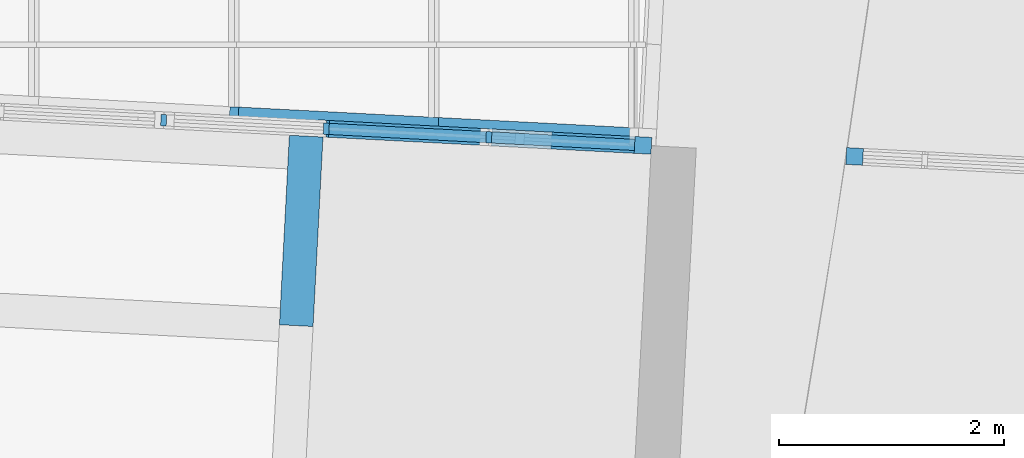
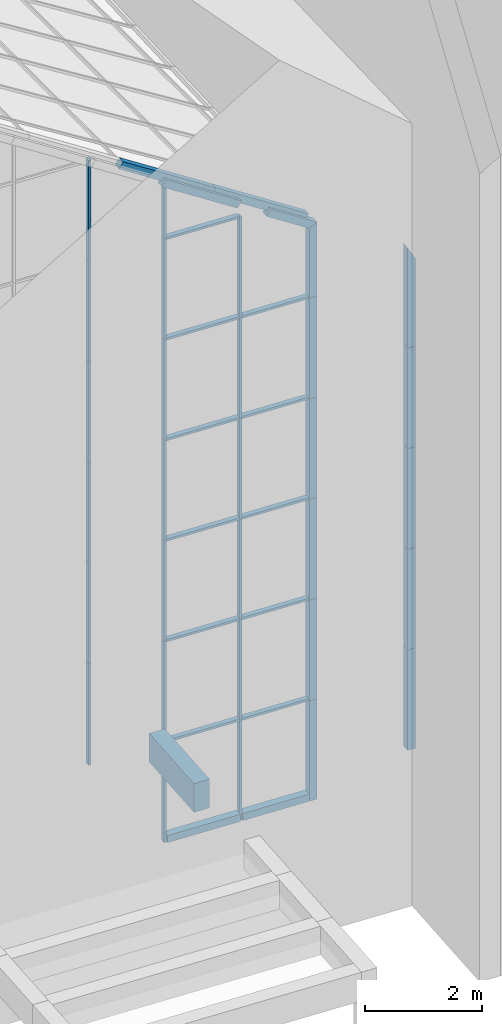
# One storey, part 4 of 82: 48 members, 3 elements without a shape of their own.
"""IFC2X3 building model written with IfcOpenShell, lengths in millimetres."""

from ifc_helpers import new_model, entity, si_unit, converted_unit, derived_unit, direction, frame, frame_2d, origin, origin_2d_with_axis, place, context, subcontext, project, spatial, rectangle, extrude, clip, halfspace, source, transform, mapped, material, type_object, type_shapes, element, aggregate, save


model = new_model("IFC2X3")

# Units and contexts
model_context = context("Model", 3, precision=0.01, world=origin(), true_north=direction((6.12303176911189e-17, 1.0)))
body_context = subcontext(model_context, "Body", "Model", "MODEL_VIEW")
ifc_project = project(units=[si_unit("LENGTHUNIT", "METRE", prefix="MILLI"), si_unit("AREAUNIT", "SQUARE_METRE"), si_unit("VOLUMEUNIT", "CUBIC_METRE"), converted_unit("PLANEANGLEUNIT", "DEGREE", entity("IfcRatioMeasure", 0.0174532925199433), si_unit("PLANEANGLEUNIT", "RADIAN"), dimensions=[0, 0, 0, 0, 0, 0, 0]), si_unit("MASSUNIT", "GRAM", prefix="KILO"), derived_unit("MASSDENSITYUNIT", [(si_unit("MASSUNIT", "GRAM", prefix="KILO"), 1), (si_unit("LENGTHUNIT", "METRE"), -3)]), si_unit("TIMEUNIT", "SECOND"), si_unit("FREQUENCYUNIT", "HERTZ"), si_unit("THERMODYNAMICTEMPERATUREUNIT", "DEGREE_CELSIUS"), derived_unit("THERMALTRANSMITTANCEUNIT", [(si_unit("MASSUNIT", "GRAM", prefix="KILO"), 1), (si_unit("THERMODYNAMICTEMPERATUREUNIT", "KELVIN"), -1), (si_unit("TIMEUNIT", "SECOND"), -3)]), derived_unit("VOLUMETRICFLOWRATEUNIT", [(si_unit("LENGTHUNIT", "METRE"), 3), (si_unit("TIMEUNIT", "SECOND"), -1)]), si_unit("ELECTRICCURRENTUNIT", "AMPERE"), si_unit("ELECTRICVOLTAGEUNIT", "VOLT"), si_unit("POWERUNIT", "WATT"), si_unit("FORCEUNIT", "NEWTON", prefix="KILO"), si_unit("ILLUMINANCEUNIT", "LUX"), si_unit("LUMINOUSFLUXUNIT", "LUMEN"), si_unit("LUMINOUSINTENSITYUNIT", "CANDELA"), derived_unit("USERDEFINED", [(si_unit("MASSUNIT", "GRAM", prefix="KILO"), -1), (si_unit("LENGTHUNIT", "METRE"), -2), (si_unit("TIMEUNIT", "SECOND"), 3), (si_unit("LUMINOUSFLUXUNIT", "LUMEN"), 1)]), derived_unit("LINEARVELOCITYUNIT", [(si_unit("LENGTHUNIT", "METRE"), 1), (si_unit("TIMEUNIT", "SECOND"), -1)]), si_unit("PRESSUREUNIT", "PASCAL"), derived_unit("USERDEFINED", [(si_unit("LENGTHUNIT", "METRE"), -2), (si_unit("MASSUNIT", "GRAM", prefix="KILO"), 1), (si_unit("TIMEUNIT", "SECOND"), -2)])], contexts=[model_context])

# Site, building, storey
site_placement = place(None, origin())
site = spatial("IfcSite", under=ifc_project, at=site_placement, Name="表面", CompositionType="ELEMENT")
building_placement = place(site_placement, origin())
building = spatial("IfcBuilding", under=site, at=building_placement, CompositionType="ELEMENT")
storey_placement = place(building_placement, origin())
storey = spatial("IfcBuildingStorey", under=building, at=storey_placement, Name="1F", CompositionType="ELEMENT", Elevation=0.0)

# Curtain wall, members
curtain_wall_type_1 = type_object("IfcCurtainWallType", Name="幕墙系统:1450 x 2100mm", PredefinedType="NOTDEFINED")
curtain_wall_1_placement = place(storey_placement, origin())
curtain_wall_1 = element("IfcCurtainWall", 1, at=curtain_wall_1_placement, inside=storey, type_object=curtain_wall_type_1, Name="幕墙系统:1450 x 2100mm", ObjectType="幕墙系统:1450 x 2100mm")
ifc_material_1 = material(Name="金属 - 铝")
member_type_1 = type_object("IfcMemberType", Name="50 x 100mm", PredefinedType="MEMBER")
shared_shape_1 = source(origin(), body_context, "Body", "SweptSolid", [
    extrude(rectangle(XDim=100.0, YDim=50.0, at=origin_2d_with_axis()), frame((0.0, 0.0, -1400.0), z_axis=(0.0, 0.0, 1.0), x_axis=(0.0, -1.0, 0.0)), (0.0, 0.0, 1.0), 1400.0),
])
type_shapes(member_type_1, [shared_shape_1])
member_1_placement = place(storey_placement, frame((-21233.5918183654, -28710.320385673, 2100.0), z_axis=(0.998629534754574, -0.0523359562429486, 0.0), x_axis=(0.0, 0.0, 1.0)))
member_1 = element("IfcMember", 2, at=member_1_placement, type_object=member_type_1, material=ifc_material_1, Name="矩形竖梃:50 x 100mm", ObjectType="50 x 100mm", context=body_context, shape_type="MappedRepresentation", body=[
    mapped(shared_shape_1, transform((0.0, 0.0, 0.0), scale=1.0)),
])
placement_1 = place(building_placement, frame((0.0, 0.0, 3000.0)))
member_2_placement = place(placement_1, frame((-21233.5918183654, -28710.320385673, 1200.0), z_axis=(0.998629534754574, -0.0523359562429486, 0.0), x_axis=(0.0, 0.0, 1.0)))
member_2 = element("IfcMember", 3, at=member_2_placement, type_object=member_type_1, material=ifc_material_1, Name="矩形竖梃:50 x 100mm", ObjectType="50 x 100mm", context=body_context, shape_type="MappedRepresentation", body=[
    mapped(shared_shape_1, transform((0.0, 0.0, 0.0), scale=1.0)),
])
placement_2 = place(building_placement, frame((0.0, 0.0, 6000.0)))
member_3_placement = place(placement_2, frame((-21233.5918183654, -28710.320385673, 300.0), z_axis=(0.998629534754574, -0.0523359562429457, 0.0), x_axis=(0.0, 0.0, 1.0)))
member_3 = element("IfcMember", 4, at=member_3_placement, type_object=member_type_1, material=ifc_material_1, Name="矩形竖梃:50 x 100mm", ObjectType="50 x 100mm", context=body_context, shape_type="MappedRepresentation", body=[
    mapped(shared_shape_1, transform((0.0, 0.0, 0.0), scale=1.0)),
])
member_4_placement = place(placement_2, frame((-21233.5918183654, -28710.320385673, 2400.0), z_axis=(0.998629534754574, -0.0523359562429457, 0.0), x_axis=(0.0, 0.0, 1.0)))
member_4 = element("IfcMember", 5, at=member_4_placement, type_object=member_type_1, material=ifc_material_1, Name="矩形竖梃:50 x 100mm", ObjectType="50 x 100mm", context=body_context, shape_type="MappedRepresentation", body=[
    mapped(shared_shape_1, transform((0.0, 0.0, 0.0), scale=1.0)),
])
placement_3 = place(building_placement, frame((0.0, 0.0, 9000.0)))
member_5_placement = place(placement_3, frame((-21233.5918183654, -28710.320385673, 1500.0), z_axis=(0.998629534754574, -0.0523359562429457, 0.0), x_axis=(0.0, 0.0, 1.0)))
member_5 = element("IfcMember", 6, at=member_5_placement, type_object=member_type_1, material=ifc_material_1, Name="矩形竖梃:50 x 100mm", ObjectType="50 x 100mm", context=body_context, shape_type="MappedRepresentation", body=[
    mapped(shared_shape_1, transform((0.0, 0.0, 0.0), scale=1.0)),
])
member_6_placement = place(placement_3, frame((-21233.5918183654, -28710.320385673, 3600.0), z_axis=(0.998629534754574, -0.0523359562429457, 0.0), x_axis=(0.0, 0.0, 1.0)))
member_6 = element("IfcMember", 7, at=member_6_placement, type_object=member_type_1, material=ifc_material_1, Name="矩形竖梃:50 x 100mm", ObjectType="50 x 100mm", context=body_context, shape_type="MappedRepresentation", body=[
    mapped(shared_shape_1, transform((0.0, 0.0, 0.0), scale=1.0)),
])
member_type_2 = type_object("IfcMemberType", Name="50 x 100mm", PredefinedType="MEMBER")
shared_shape_2 = source(origin(), body_context, "Body", "SweptSolid", [
    extrude(rectangle(XDim=100.0, YDim=50.0, at=origin_2d_with_axis()), frame((0.0, 0.0, -2100.0), z_axis=(0.0, 0.0, 1.0), x_axis=(0.0, -1.0, 0.0)), (0.0, 0.0, 1.0), 2100.0),
])
type_shapes(member_type_2, [shared_shape_2])
member_7_placement = place(storey_placement, frame((-21208.6260799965, -28711.6287845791, 2100.0), z_axis=(0.0, 0.0, 1.0), x_axis=(-0.998629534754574, 0.0523359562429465, 0.0)))
member_7 = element("IfcMember", 8, at=member_7_placement, type_object=member_type_2, material=ifc_material_1, Name="矩形竖梃:50 x 100mm", ObjectType="50 x 100mm", context=body_context, shape_type="MappedRepresentation", body=[
    mapped(shared_shape_2, transform((0.0, 0.0, 0.0), scale=1.0)),
])
member_8_placement = place(storey_placement, frame((-22656.6389053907, -28635.7416480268, 2100.0), z_axis=(0.0, 0.0, 1.0), x_axis=(-0.998629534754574, 0.0523359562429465, 0.0)))
member_8 = element("IfcMember", 9, at=member_8_placement, type_object=member_type_2, material=ifc_material_1, Name="矩形竖梃:50 x 100mm", ObjectType="50 x 100mm", context=body_context, shape_type="MappedRepresentation", body=[
    mapped(shared_shape_2, transform((0.0, 0.0, 0.0), scale=1.0)),
])
member_type_3 = type_object("IfcMemberType", Name="50 x 100mm", PredefinedType="MEMBER")
shared_shape_3 = source(origin(), body_context, "Body", "SweptSolid", [
    extrude(rectangle(XDim=100.0, YDim=50.0, at=origin_2d_with_axis()), frame((0.0, 0.0, -2100.0), z_axis=(0.0, 0.0, 1.0), x_axis=(0.0, -1.0, 0.0)), (0.0, 0.0, 1.0), 2100.0),
])
type_shapes(member_type_3, [shared_shape_3])
member_9_placement = place(storey_placement, frame((-21208.6260799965, -28711.6287845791, 4200.0), z_axis=(0.0, 0.0, 1.0), x_axis=(-0.998629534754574, 0.0523359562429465, 0.0)))
member_9 = element("IfcMember", 10, at=member_9_placement, type_object=member_type_3, material=ifc_material_1, Name="矩形竖梃:50 x 100mm", ObjectType="50 x 100mm", context=body_context, shape_type="MappedRepresentation", body=[
    mapped(shared_shape_3, transform((0.0, 0.0, 0.0), scale=1.0)),
])
member_10_placement = place(storey_placement, frame((-22656.6389053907, -28635.7416480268, 4200.0), z_axis=(0.0, 0.0, 1.0), x_axis=(-0.998629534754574, 0.0523359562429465, 0.0)))
member_10 = element("IfcMember", 11, at=member_10_placement, type_object=member_type_3, material=ifc_material_1, Name="矩形竖梃:50 x 100mm", ObjectType="50 x 100mm", context=body_context, shape_type="MappedRepresentation", body=[
    mapped(shared_shape_3, transform((0.0, 0.0, 0.0), scale=1.0)),
])
member_11_placement = place(placement_1, frame((-21208.6260799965, -28711.6287845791, 3300.0), z_axis=(0.0, 0.0, 1.0), x_axis=(-0.998629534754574, 0.0523359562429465, 0.0)))
member_11 = element("IfcMember", 12, at=member_11_placement, type_object=member_type_3, material=ifc_material_1, Name="矩形竖梃:50 x 100mm", ObjectType="50 x 100mm", context=body_context, shape_type="MappedRepresentation", body=[
    mapped(shared_shape_3, transform((0.0, 0.0, 0.0), scale=1.0)),
])
member_12_placement = place(placement_1, frame((-22656.6389053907, -28635.7416480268, 3300.0), z_axis=(0.0, 0.0, 1.0), x_axis=(-0.998629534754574, 0.0523359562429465, 0.0)))
member_12 = element("IfcMember", 13, at=member_12_placement, type_object=member_type_3, material=ifc_material_1, Name="矩形竖梃:50 x 100mm", ObjectType="50 x 100mm", context=body_context, shape_type="MappedRepresentation", body=[
    mapped(shared_shape_3, transform((0.0, 0.0, 0.0), scale=1.0)),
])
member_13_placement = place(placement_1, frame((-24104.6517307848, -28559.8545114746, 3300.0), z_axis=(0.0, 0.0, 1.0), x_axis=(-0.998629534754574, 0.0523359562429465, 0.0)))
member_13 = element("IfcMember", 14, at=member_13_placement, type_object=member_type_3, material=ifc_material_1, Name="矩形竖梃:50 x 100mm", ObjectType="50 x 100mm", context=body_context, shape_type="MappedRepresentation", body=[
    mapped(shared_shape_3, transform((0.0, 0.0, 0.0), scale=1.0)),
])
member_14_placement = place(placement_2, frame((-21208.6260799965, -28711.6287845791, 2400.0), z_axis=(0.0, 0.0, 1.0), x_axis=(-0.998629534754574, 0.0523359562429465, 0.0)))
member_14 = element("IfcMember", 15, at=member_14_placement, type_object=member_type_3, material=ifc_material_1, Name="矩形竖梃:50 x 100mm", ObjectType="50 x 100mm", context=body_context, shape_type="MappedRepresentation", body=[
    mapped(shared_shape_3, transform((0.0, 0.0, 0.0), scale=1.0)),
])
member_15_placement = place(placement_2, frame((-22656.6389053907, -28635.7416480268, 2400.0), z_axis=(0.0, 0.0, 1.0), x_axis=(-0.998629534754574, 0.0523359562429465, 0.0)))
member_15 = element("IfcMember", 16, at=member_15_placement, type_object=member_type_3, material=ifc_material_1, Name="矩形竖梃:50 x 100mm", ObjectType="50 x 100mm", context=body_context, shape_type="MappedRepresentation", body=[
    mapped(shared_shape_3, transform((0.0, 0.0, 0.0), scale=1.0)),
])
member_16_placement = place(placement_2, frame((-24104.6517307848, -28559.8545114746, 2400.0), z_axis=(0.0, 0.0, 1.0), x_axis=(-0.998629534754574, 0.0523359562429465, 0.0)))
member_16 = element("IfcMember", 17, at=member_16_placement, type_object=member_type_3, material=ifc_material_1, Name="矩形竖梃:50 x 100mm", ObjectType="50 x 100mm", context=body_context, shape_type="MappedRepresentation", body=[
    mapped(shared_shape_3, transform((0.0, 0.0, 0.0), scale=1.0)),
])
member_17_placement = place(placement_2, frame((-21208.6260799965, -28711.6287845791, 4500.0), z_axis=(0.0, 0.0, 1.0), x_axis=(-0.998629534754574, 0.0523359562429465, 0.0)))
member_17 = element("IfcMember", 18, at=member_17_placement, type_object=member_type_3, material=ifc_material_1, Name="矩形竖梃:50 x 100mm", ObjectType="50 x 100mm", context=body_context, shape_type="MappedRepresentation", body=[
    mapped(shared_shape_3, transform((0.0, 0.0, 0.0), scale=1.0)),
])
member_18_placement = place(placement_2, frame((-22656.6389053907, -28635.7416480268, 4500.0), z_axis=(0.0, 0.0, 1.0), x_axis=(-0.998629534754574, 0.0523359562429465, 0.0)))
member_18 = element("IfcMember", 19, at=member_18_placement, type_object=member_type_3, material=ifc_material_1, Name="矩形竖梃:50 x 100mm", ObjectType="50 x 100mm", context=body_context, shape_type="MappedRepresentation", body=[
    mapped(shared_shape_3, transform((0.0, 0.0, 0.0), scale=1.0)),
])
member_19_placement = place(placement_2, frame((-24104.6517307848, -28559.8545114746, 4500.0), z_axis=(0.0, 0.0, 1.0), x_axis=(-0.998629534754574, 0.0523359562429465, 0.0)))
member_19 = element("IfcMember", 20, at=member_19_placement, type_object=member_type_3, material=ifc_material_1, Name="矩形竖梃:50 x 100mm", ObjectType="50 x 100mm", context=body_context, shape_type="MappedRepresentation", body=[
    mapped(shared_shape_3, transform((0.0, 0.0, 0.0), scale=1.0)),
])
member_20_placement = place(placement_3, frame((-21208.6260799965, -28711.6287845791, 3600.0), z_axis=(0.0, 0.0, 1.0), x_axis=(-0.998629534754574, 0.0523359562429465, 0.0)))
member_20 = element("IfcMember", 21, at=member_20_placement, type_object=member_type_3, material=ifc_material_1, Name="矩形竖梃:50 x 100mm", ObjectType="50 x 100mm", context=body_context, shape_type="MappedRepresentation", body=[
    mapped(shared_shape_3, transform((0.0, 0.0, 0.0), scale=1.0)),
])
member_21_placement = place(placement_3, frame((-22656.6389053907, -28635.7416480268, 3600.0), z_axis=(0.0, 0.0, 1.0), x_axis=(-0.998629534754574, 0.0523359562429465, 0.0)))
member_21 = element("IfcMember", 22, at=member_21_placement, type_object=member_type_3, material=ifc_material_1, Name="矩形竖梃:50 x 100mm", ObjectType="50 x 100mm", context=body_context, shape_type="MappedRepresentation", body=[
    mapped(shared_shape_3, transform((0.0, 0.0, 0.0), scale=1.0)),
])
member_22_placement = place(placement_3, frame((-24104.6517307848, -28559.8545114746, 3600.0), z_axis=(0.0, 0.0, 1.0), x_axis=(-0.998629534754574, 0.0523359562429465, 0.0)))
member_22 = element("IfcMember", 23, at=member_22_placement, type_object=member_type_3, material=ifc_material_1, Name="矩形竖梃:50 x 100mm", ObjectType="50 x 100mm", context=body_context, shape_type="MappedRepresentation", body=[
    mapped(shared_shape_3, transform((0.0, 0.0, 0.0), scale=1.0)),
])
member_23_placement = place(placement_3, frame((-24104.6517307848, -28559.8545114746, 5700.0), z_axis=(0.0, 0.0, 1.0), x_axis=(-0.998629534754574, 0.0523359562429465, 0.0)))
member_23 = element("IfcMember", 24, at=member_23_placement, type_object=member_type_3, material=ifc_material_1, Name="矩形竖梃:50 x 100mm", ObjectType="50 x 100mm", context=body_context, shape_type="MappedRepresentation", body=[
    mapped(shared_shape_3, transform((0.0, 0.0, 0.0), scale=1.0)),
])
member_type_4 = type_object("IfcMemberType", Name="50 x 100mm", PredefinedType="MEMBER")
shared_shape_4 = source(origin(), body_context, "Body", "SweptSolid", [
    extrude(rectangle(XDim=100.0, YDim=50.0, at=origin_2d_with_axis()), frame((0.0, 0.0, -2125.0), z_axis=(0.0, 0.0, 1.0), x_axis=(0.0, -1.0, 0.0)), (0.0, 0.0, 1.0), 2124.99999999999),
])
type_shapes(member_type_4, [shared_shape_4])
member_24_placement = place(storey_placement, frame((-24104.6517307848, -28559.8545114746, 4200.0), z_axis=(0.0, 0.0, 1.0), x_axis=(-0.998629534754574, 0.0523359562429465, 0.0)))
member_24 = element("IfcMember", 25, at=member_24_placement, type_object=member_type_4, material=ifc_material_1, Name="矩形竖梃:50 x 100mm", ObjectType="50 x 100mm", context=body_context, shape_type="MappedRepresentation", body=[
    mapped(shared_shape_4, transform((0.0, 0.0, 0.0), scale=1.0)),
])
ifc_material_2 = material(Name="木质 - 木材")
member_type_5 = type_object("IfcMemberType", Name="200 x 150mm", PredefinedType="MEMBER")
shared_shape_5 = source(origin(), body_context, "Body", "SweptSolid", [
    extrude(rectangle(XDim=150.0, YDim=150.0, at=origin_2d_with_axis()), frame((-75.0, 0.0, -1400.0), z_axis=(0.0, 0.0, 1.0), x_axis=(0.0, -1.0, 0.0)), (0.0, 0.0, 1.0), 1400.0),
])
type_shapes(member_type_5, [shared_shape_5])
member_25_placement = place(storey_placement, frame((-22631.6731670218, -28637.0500469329, 0.0), z_axis=(-0.998629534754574, 0.0523359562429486, 0.0), x_axis=(0.0, 0.0, -1.0)))
member_25 = element("IfcMember", 26, at=member_25_placement, type_object=member_type_5, material=ifc_material_2, Name="矩形竖梃:200 x 150mm", ObjectType="200 x 150mm", context=body_context, shape_type="MappedRepresentation", body=[
    mapped(shared_shape_5, transform((0.0, 0.0, 0.0), scale=1.0)),
])
member_type_6 = type_object("IfcMemberType", Name="200 x 150mm", PredefinedType="MEMBER")
shared_shape_6 = source(origin(), body_context, "Body", "SweptSolid", [
    extrude(rectangle(XDim=150.0, YDim=150.0, at=origin_2d_with_axis()), frame((-75.0, 0.0, -2100.0), z_axis=(0.0, 0.0, 1.0), x_axis=(0.0, -1.0, 0.0)), (0.0, 0.0, 1.0), 2100.0),
])
type_shapes(member_type_6, [shared_shape_6])
member_26_placement = place(storey_placement, frame((-19760.6132546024, -28787.5159211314, 0.0), z_axis=(0.0, 0.0, -1.0), x_axis=(0.998629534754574, -0.0523359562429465, 0.0)))
member_26 = element("IfcMember", 27, at=member_26_placement, type_object=member_type_6, material=ifc_material_2, Name="矩形竖梃:200 x 150mm", ObjectType="200 x 150mm", context=body_context, shape_type="MappedRepresentation", body=[
    mapped(shared_shape_6, transform((0.0, 0.0, 0.0), scale=1.0)),
])
member_type_7 = type_object("IfcMemberType", Name="200 x 150mm", PredefinedType="MEMBER")
shared_shape_7 = source(origin(), body_context, "Body", "SweptSolid", [
    extrude(rectangle(XDim=150.0, YDim=150.0, at=origin_2d_with_axis()), frame((-75.0, 0.0, -2100.0), z_axis=(0.0, 0.0, 1.0), x_axis=(0.0, -1.0, 0.0)), (0.0, 0.0, 1.0), 2100.0),
])
type_shapes(member_type_7, [shared_shape_7])
member_27_placement = place(storey_placement, frame((-19760.6132546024, -28787.5159211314, 2100.0), z_axis=(0.0, 0.0, -1.0), x_axis=(0.998629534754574, -0.0523359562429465, 0.0)))
member_27 = element("IfcMember", 28, at=member_27_placement, type_object=member_type_7, material=ifc_material_2, Name="矩形竖梃:200 x 150mm", ObjectType="200 x 150mm", context=body_context, shape_type="MappedRepresentation", body=[
    mapped(shared_shape_7, transform((0.0, 0.0, 0.0), scale=1.0)),
])
member_28_placement = place(placement_1, frame((-19760.6132546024, -28787.5159211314, 1200.0), z_axis=(0.0, 0.0, -1.0), x_axis=(0.998629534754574, -0.0523359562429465, 0.0)))
member_28 = element("IfcMember", 29, at=member_28_placement, type_object=member_type_7, material=ifc_material_2, Name="矩形竖梃:200 x 150mm", ObjectType="200 x 150mm", context=body_context, shape_type="MappedRepresentation", body=[
    mapped(shared_shape_7, transform((0.0, 0.0, 0.0), scale=1.0)),
])
member_29_placement = place(placement_2, frame((-19760.6132546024, -28787.5159211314, 300.0), z_axis=(0.0, 0.0, -1.0), x_axis=(0.998629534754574, -0.0523359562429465, 0.0)))
member_29 = element("IfcMember", 30, at=member_29_placement, type_object=member_type_7, material=ifc_material_2, Name="矩形竖梃:200 x 150mm", ObjectType="200 x 150mm", context=body_context, shape_type="MappedRepresentation", body=[
    mapped(shared_shape_7, transform((0.0, 0.0, 0.0), scale=1.0)),
])
member_30_placement = place(placement_2, frame((-19760.6132546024, -28787.5159211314, 2400.0), z_axis=(0.0, 0.0, -1.0), x_axis=(0.998629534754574, -0.0523359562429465, 0.0)))
member_30 = element("IfcMember", 31, at=member_30_placement, type_object=member_type_7, material=ifc_material_2, Name="矩形竖梃:200 x 150mm", ObjectType="200 x 150mm", context=body_context, shape_type="MappedRepresentation", body=[
    mapped(shared_shape_7, transform((0.0, 0.0, 0.0), scale=1.0)),
])

curtain_wall_2_placement = place(storey_placement, origin())
curtain_wall_2 = element("IfcCurtainWall", 32, at=curtain_wall_2_placement, inside=storey, type_object=curtain_wall_type_1, Name="幕墙系统:1450 x 2100mm", ObjectType="幕墙系统:1450 x 2100mm")
member_type_8 = type_object("IfcMemberType", Name="200 x 150mm", PredefinedType="MEMBER")
shared_shape_8 = source(origin(), body_context, "Body", "SweptSolid", [
    extrude(rectangle(XDim=150.0, YDim=150.0, at=origin_2d_with_axis()), frame((-75.0, 0.0, -2100.0), z_axis=(0.0, 0.0, 1.0), x_axis=(0.0, -1.0, 0.0)), (0.0, 0.0, 1.0), 2100.0),
])
type_shapes(member_type_8, [shared_shape_8])
member_31_placement = place(storey_placement, frame((-18026.1844257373, -28878.4134843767, 2560.20711072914), z_axis=(0.0, 0.0, 1.0), x_axis=(-0.998629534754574, 0.0523359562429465, 0.0)))
member_31 = element("IfcMember", 33, at=member_31_placement, type_object=member_type_8, material=ifc_material_2, Name="矩形竖梃:200 x 150mm", ObjectType="200 x 150mm", context=body_context, shape_type="MappedRepresentation", body=[
    mapped(shared_shape_8, transform((0.0, 0.0, 0.0), scale=1.0)),
])
member_32_placement = place(storey_placement, frame((-18026.1844257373, -28878.4134843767, 4660.20711072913), z_axis=(0.0, 0.0, 1.0), x_axis=(-0.998629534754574, 0.0523359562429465, 0.0)))
member_32 = element("IfcMember", 34, at=member_32_placement, type_object=member_type_8, material=ifc_material_2, Name="矩形竖梃:200 x 150mm", ObjectType="200 x 150mm", context=body_context, shape_type="MappedRepresentation", body=[
    mapped(shared_shape_8, transform((0.0, 0.0, 0.0), scale=1.0)),
])
member_33_placement = place(placement_1, frame((-18026.1844257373, -28878.4134843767, 3760.20711072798), z_axis=(0.0, 0.0, 1.0), x_axis=(-0.998629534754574, 0.0523359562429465, 0.0)))
member_33 = element("IfcMember", 35, at=member_33_placement, type_object=member_type_8, material=ifc_material_2, Name="矩形竖梃:200 x 150mm", ObjectType="200 x 150mm", context=body_context, shape_type="MappedRepresentation", body=[
    mapped(shared_shape_8, transform((0.0, 0.0, 0.0), scale=1.0)),
])
member_34_placement = place(placement_2, frame((-18026.1844257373, -28878.4134843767, 2860.20711072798), z_axis=(0.0, 0.0, 1.0), x_axis=(-0.998629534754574, 0.0523359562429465, 0.0)))
member_34 = element("IfcMember", 36, at=member_34_placement, type_object=member_type_8, material=ifc_material_2, Name="矩形竖梃:200 x 150mm", ObjectType="200 x 150mm", context=body_context, shape_type="MappedRepresentation", body=[
    mapped(shared_shape_8, transform((0.0, 0.0, 0.0), scale=1.0)),
])
member_type_9 = type_object("IfcMemberType", Name="200 x 150mm", PredefinedType="MEMBER")
shared_shape_9 = source(origin(), body_context, "Body", "Clipping", [
    clip(extrude(rectangle(XDim=150.0, YDim=150.0, at=origin_2d_with_axis()), frame((-75.0, 0.0, -2100.0), z_axis=(0.0, 0.0, 1.0), x_axis=(0.0, -1.0, 0.0)), (0.0, 0.0, 1.0), 2100.0), halfspace(frame((0.0, -304.8, 0.0), z_axis=(-0.874470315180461, 0.0, 0.485079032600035), x_axis=(-0.485079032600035, 0.0, -0.874470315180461)), False)),
])
type_shapes(member_type_9, [shared_shape_9])
member_35_placement = place(placement_2, frame((-18026.1844257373, -28878.4134843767, 4960.20711072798), z_axis=(0.0, 0.0, 1.0), x_axis=(-0.998629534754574, 0.0523359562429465, 0.0)))
member_35 = element("IfcMember", 37, at=member_35_placement, type_object=member_type_9, material=ifc_material_2, Name="矩形竖梃:200 x 150mm", ObjectType="200 x 150mm", context=body_context, shape_type="MappedRepresentation", body=[
    mapped(shared_shape_9, transform((0.0, 0.0, 0.0), scale=1.0)),
])
aggregate(curtain_wall_2, [member_35, member_31, member_32, member_33, member_34])

# Member
member_type_10 = type_object("IfcMemberType", Name="200 x 150mm", PredefinedType="MEMBER")
shared_shape_10 = source(origin(), body_context, "Body", "SweptSolid", [
    extrude(rectangle(XDim=150.0, YDim=150.0, at=origin_2d_with_axis()), frame((-75.0, 0.0, -1275.0), z_axis=(0.0, 0.0, 1.0), x_axis=(0.0, -1.0, 0.0)), (0.0, 0.0, 1.0), 1275.0),
])
type_shapes(member_type_10, [shared_shape_10])
member_36_placement = place(storey_placement, frame((-21183.6603416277, -28712.9371834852, 0.0), z_axis=(-0.998629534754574, 0.0523359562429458, 0.0), x_axis=(0.0, 0.0, -1.0)))
member_36 = element("IfcMember", 38, at=member_36_placement, type_object=member_type_10, material=ifc_material_2, Name="矩形竖梃:200 x 150mm", ObjectType="200 x 150mm", context=body_context, shape_type="MappedRepresentation", body=[
    mapped(shared_shape_10, transform((0.0, 0.0, 0.0), scale=1.0)),
])

member_type_11 = type_object("IfcMemberType", Name="50 x 100mm", PredefinedType="MEMBER")
shared_shape_11 = source(origin(), body_context, "Body", "SweptSolid", [
    extrude(rectangle(XDim=100.0, YDim=50.0, at=frame_2d((-1.4210854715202e-14, 0.0), x_axis=(1.0, 0.0))), frame((0.0, 0.0, -1275.0), z_axis=(0.0, 0.0, 1.0), x_axis=(0.0, -1.0, 0.0)), (0.0, 0.0, 1.0), 1275.0),
])
type_shapes(member_type_11, [shared_shape_11])
member_37_placement = place(storey_placement, frame((-19910.4076848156, -28779.665527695, 2100.0), z_axis=(0.998629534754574, -0.0523359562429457, 0.0), x_axis=(0.0, 0.0, 1.0)))
member_37 = element("IfcMember", 39, at=member_37_placement, type_object=member_type_11, material=ifc_material_1, Name="矩形竖梃:50 x 100mm", ObjectType="50 x 100mm", context=body_context, shape_type="MappedRepresentation", body=[
    mapped(shared_shape_11, transform((0.0, 0.0, 0.0), scale=1.0)),
])

member_38_placement = place(placement_1, frame((-19910.4076848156, -28779.665527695, 1200.0), z_axis=(0.998629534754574, -0.0523359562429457, 0.0), x_axis=(0.0, 0.0, 1.0)))
member_38 = element("IfcMember", 40, at=member_38_placement, type_object=member_type_11, material=ifc_material_1, Name="矩形竖梃:50 x 100mm", ObjectType="50 x 100mm", context=body_context, shape_type="MappedRepresentation", body=[
    mapped(shared_shape_11, transform((0.0, 0.0, 0.0), scale=1.0)),
])

member_39_placement = place(placement_2, frame((-19910.4076848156, -28779.665527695, 300.0), z_axis=(0.998629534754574, -0.0523359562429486, 0.0), x_axis=(0.0, 0.0, 1.0)))
member_39 = element("IfcMember", 41, at=member_39_placement, type_object=member_type_11, material=ifc_material_1, Name="矩形竖梃:50 x 100mm", ObjectType="50 x 100mm", context=body_context, shape_type="MappedRepresentation", body=[
    mapped(shared_shape_11, transform((0.0, 0.0, 0.0), scale=1.0)),
])

member_40_placement = place(placement_2, frame((-19910.4076848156, -28779.665527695, 2400.0), z_axis=(0.998629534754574, -0.0523359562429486, 0.0), x_axis=(0.0, 0.0, 1.0)))
member_40 = element("IfcMember", 42, at=member_40_placement, type_object=member_type_11, material=ifc_material_1, Name="矩形竖梃:50 x 100mm", ObjectType="50 x 100mm", context=body_context, shape_type="MappedRepresentation", body=[
    mapped(shared_shape_11, transform((0.0, 0.0, 0.0), scale=1.0)),
])

member_41_placement = place(placement_3, frame((-19910.4076848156, -28779.665527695, 1500.0), z_axis=(0.998629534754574, -0.0523359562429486, 0.0), x_axis=(0.0, 0.0, 1.0)))
member_41 = element("IfcMember", 43, at=member_41_placement, type_object=member_type_11, material=ifc_material_1, Name="矩形竖梃:50 x 100mm", ObjectType="50 x 100mm", context=body_context, shape_type="MappedRepresentation", body=[
    mapped(shared_shape_11, transform((0.0, 0.0, 0.0), scale=1.0)),
])

member_type_12 = type_object("IfcMemberType", Name="200 x 150mm", PredefinedType="MEMBER")
shared_shape_12 = source(origin(), body_context, "Body", "SweptSolid", [
    extrude(rectangle(XDim=150.0, YDim=150.0, at=frame_2d((1.27897692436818e-13, 0.0), x_axis=(1.0, 0.0))), frame((-75.0, 0.0, -2102.07303900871), z_axis=(0.0, 0.0, 1.0), x_axis=(0.0, -1.0, 0.0)), (0.0, 0.0, 1.0), 2102.07303900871),
])
type_shapes(member_type_12, [shared_shape_12])
member_42_placement = place(placement_3, frame((-21700.0006149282, -28685.8769364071, 4255.86225190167), z_axis=(-0.847211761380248, 0.0444004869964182, 0.52939666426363), x_axis=(-0.037653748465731, -0.999013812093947, 0.0235286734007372)))
member_42 = element("IfcMember", 44, at=member_42_placement, type_object=member_type_12, material=ifc_material_2, Name="矩形竖梃:200 x 150mm", ObjectType="200 x 150mm", context=body_context, shape_type="MappedRepresentation", body=[
    mapped(shared_shape_12, transform((0.0, 0.0, 0.0), scale=1.0)),
])

member_type_13 = type_object("IfcMemberType", Name="200 x 150mm", PredefinedType="MEMBER")
shared_shape_13 = source(origin(), body_context, "Body", "SweptSolid", [
    extrude(rectangle(XDim=150.0, YDim=150.0, at=origin_2d_with_axis()), frame((-75.0, 0.0, -2102.0730390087), z_axis=(0.0, 0.0, 1.0), x_axis=(0.0, -1.0, 0.0)), (0.0, 0.0, 1.0), 2102.07303900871),
])
type_shapes(member_type_13, [shared_shape_13])
member_43_placement = place(placement_3, frame((-23480.9016168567, -28592.5438697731, 5368.69270679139), z_axis=(-0.847211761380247, 0.0444004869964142, 0.529396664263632), x_axis=(-0.0376537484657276, -0.999013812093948, 0.0235286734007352)))
member_43 = element("IfcMember", 45, at=member_43_placement, type_object=member_type_13, material=ifc_material_2, Name="矩形竖梃:200 x 150mm", ObjectType="200 x 150mm", context=body_context, shape_type="MappedRepresentation", body=[
    mapped(shared_shape_13, transform((0.0, 0.0, 0.0), scale=1.0)),
])

member_type_14 = type_object("IfcMemberType", Name="200 x 150mm", PredefinedType="MEMBER")
shared_shape_14 = source(origin(), body_context, "Body", "Clipping", [
    clip(extrude(rectangle(XDim=150.0, YDim=150.0, at=frame_2d((7.105427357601e-15, -4.9737991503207e-14), x_axis=(1.0, 0.0))), frame((-75.0, 0.0, -1050.25495734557), z_axis=(0.0, 0.0, 1.0), x_axis=(0.0, -1.0, 0.0)), (0.0, 0.0, 1.0), 1050.25495734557), halfspace(frame((0.0, -304.800000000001, 0.0), z_axis=(-0.485079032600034, 0.0, 0.874470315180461), x_axis=(-0.874470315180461, 0.0, -0.485079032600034)), False)),
])
type_shapes(member_type_14, [shared_shape_14])
member_44_placement = place(placement_3, frame((-19760.6132546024, -28787.5159211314, 3043.99852895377), z_axis=(0.847211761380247, -0.0444004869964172, -0.529396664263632), x_axis=(0.528671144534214, -0.0277064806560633, 0.848374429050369)))
member_44 = element("IfcMember", 46, at=member_44_placement, type_object=member_type_14, material=ifc_material_2, Name="矩形竖梃:200 x 150mm", ObjectType="200 x 150mm", context=body_context, shape_type="MappedRepresentation", body=[
    mapped(shared_shape_14, transform((0.0, 0.0, 0.0), scale=1.0)),
])

member_type_15 = type_object("IfcMemberType", Name="200 x 150mm", PredefinedType="MEMBER")
shared_shape_15 = source(origin(), body_context, "Body", "SweptSolid", [
    extrude(rectangle(XDim=150.0, YDim=150.0, at=origin_2d_with_axis()), frame((-75.0, 0.0, -1709.1509955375), z_axis=(0.0, 0.0, 1.0), x_axis=(0.0, -1.0, 0.0)), (0.0, 0.0, 1.0), 1709.1509955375),
])
type_shapes(member_type_15, [shared_shape_15])
member_45_placement = place(placement_3, frame((-21208.6260799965, -28711.6287845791, 3948.81736471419), z_axis=(0.847211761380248, -0.0444004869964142, -0.52939666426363), x_axis=(0.528671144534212, -0.0277064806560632, 0.84837442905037)))
member_45 = element("IfcMember", 47, at=member_45_placement, type_object=member_type_15, material=ifc_material_2, Name="矩形竖梃:200 x 150mm", ObjectType="200 x 150mm", context=body_context, shape_type="MappedRepresentation", body=[
    mapped(shared_shape_15, transform((0.0, 0.0, 0.0), scale=1.0)),
])

member_type_16 = type_object("IfcMemberType", Name="200 x 150mm", PredefinedType="MEMBER")
shared_shape_16 = source(origin(), body_context, "Body", "Clipping", [
    clip(extrude(rectangle(XDim=150.0, YDim=150.0, at=origin_2d_with_axis()), frame((-75.0, 0.0, -1543.99852895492), z_axis=(0.0, 0.0, 1.0), x_axis=(0.0, -1.0, 0.0)), (0.0, 0.0, 1.0), 1543.99852895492), halfspace(frame((0.0, -304.8, -1543.99852895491), z_axis=(-0.485079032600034, 0.0, -0.874470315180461), x_axis=(-0.874470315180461, 0.0, 0.485079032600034)), False)),
])
type_shapes(member_type_16, [shared_shape_16])
member_46_placement = place(placement_3, frame((-19760.6132546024, -28787.5159211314, 1500.0), z_axis=(0.0, 0.0, -1.0), x_axis=(0.998629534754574, -0.0523359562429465, 0.0)))
member_46 = element("IfcMember", 48, at=member_46_placement, type_object=member_type_16, material=ifc_material_2, Name="矩形竖梃:200 x 150mm", ObjectType="200 x 150mm", context=body_context, shape_type="MappedRepresentation", body=[
    mapped(shared_shape_16, transform((0.0, 0.0, 0.0), scale=1.0)),
])

member_type_17 = type_object("IfcMemberType", Name="50 x 100mm", PredefinedType="MEMBER")
shared_shape_17 = source(origin(), body_context, "Body", "Clipping", [
    clip(extrude(rectangle(XDim=100.0, YDim=50.0, at=origin_2d_with_axis()), frame((0.0, 0.0, -1253.63620047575), z_axis=(0.0, 0.0, 1.0), x_axis=(0.0, -1.0, 0.0)), (0.0, 0.0, 1.0), 1092.42780155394), halfspace(frame((-1370.59050036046, 75.0, -1032.07500011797), z_axis=(-0.529396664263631, 0.0, 0.848374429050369), x_axis=(0.848374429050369, 0.0, 0.529396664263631)), False)),
])
type_shapes(member_type_17, [shared_shape_17])
member_47_placement = place(placement_3, frame((-22656.6389053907, -28635.7416480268, 4853.6362004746), z_axis=(0.0, 0.0, 1.0), x_axis=(-0.998629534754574, 0.0523359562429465, 0.0)))
member_47 = element("IfcMember", 49, at=member_47_placement, type_object=member_type_17, material=ifc_material_1, Name="矩形竖梃:50 x 100mm", ObjectType="50 x 100mm", context=body_context, shape_type="MappedRepresentation", body=[
    mapped(shared_shape_17, transform((0.0, 0.0, 0.0), scale=1.0)),
])

aggregate(curtain_wall_1, [member_42, member_43, member_44, member_26, member_36, member_25, member_45, member_27, member_28, member_29, member_30, member_46, member_37, member_1, member_38, member_2, member_39, member_3, member_40, member_4, member_41, member_5, member_6, member_47, member_7, member_8, member_9, member_10, member_24, member_11, member_12, member_13, member_14, member_15, member_16, member_17, member_18, member_19, member_20, member_21, member_22, member_23])

# Roof, member
curtain_wall_type_2 = type_object("IfcCurtainWallType", Name="玻璃斜窗:玻璃斜窗", PredefinedType="NOTDEFINED")
roof_placement = place(storey_placement, origin())
roof = element("IfcRoof", 50, at=roof_placement, inside=storey, type_object=curtain_wall_type_2, Name="玻璃斜窗:玻璃斜窗", ObjectType="玻璃斜窗:玻璃斜窗:338", ShapeType="NOTDEFINED")
ifc_material_3 = material(Name="白色涂料")
member_type_18 = type_object("IfcMemberType", Name="300x600", PredefinedType="MEMBER")
shared_shape_18 = source(origin(), body_context, "Body", "SweptSolid", [
    extrude(rectangle(XDim=600.0, YDim=300.0, at=origin_2d_with_axis()), frame((-150.0, 0.0, -1690.0), z_axis=(0.0, 0.0, 1.0), x_axis=(0.0, -1.0, 0.0)), (0.0, 0.0, 1.0), 1690.0),
])
type_shapes(member_type_18, [shared_shape_18])
member_48_placement = place(storey_placement, frame((-22685.5298404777, -28709.3304642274, 2100.0), z_axis=(0.0523359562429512, 0.998629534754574, 0.0), x_axis=(0.998629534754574, -0.0523359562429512, 0.0)))
member_48 = element("IfcMember", 51, at=member_48_placement, type_object=member_type_18, material=ifc_material_3, Name="矩形竖梃:300x600", ObjectType="300x600", context=body_context, shape_type="MappedRepresentation", body=[
    mapped(shared_shape_18, transform((0.0, 0.0, 0.0), scale=1.0)),
])
aggregate(roof, [member_48])

save(model, "model.ifc")
